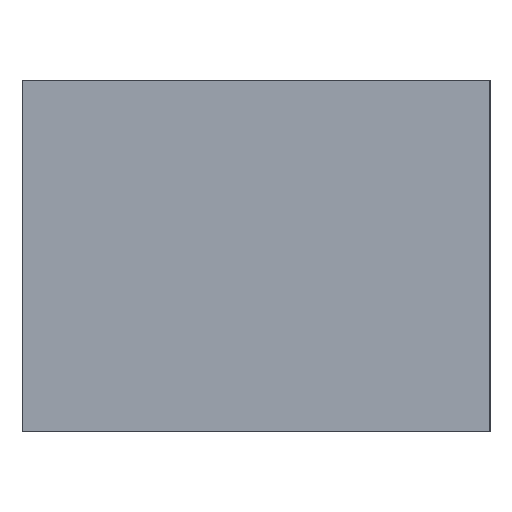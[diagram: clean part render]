
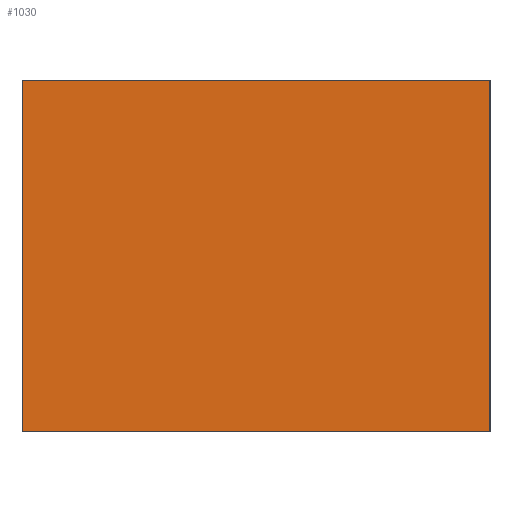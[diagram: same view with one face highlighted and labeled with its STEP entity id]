
A CAD part, left-side view. The second image highlights one B-rep face of the part: STEP entity #1030.
In plain terms, the highlighted planar face has unit normal (-1, 0, 0).
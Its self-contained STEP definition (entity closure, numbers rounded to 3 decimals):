
#1030=ADVANCED_FACE('', (#1040), #1050, .T.);
#3140=AXIS2_PLACEMENT_3D('Ax2Pl3d', #3150, #3160, #3170);
#3350=CARTESIAN_POINT('', (0.,0.,30.));
#3360=CARTESIAN_POINT('', (0.,40.,30.));
#3370=CARTESIAN_POINT('', (0.,0.,30.));
#3610=CARTESIAN_POINT('', (0.,0.,0.));
#3630=CARTESIAN_POINT('', (0.,0.,0.));
#3640=CARTESIAN_POINT('', (0.,40.,0.));
#3760=CARTESIAN_POINT('', (0.,0.,30.));
#3150=CARTESIAN_POINT('HicPkt', (0.,0.,0.));
#3770=CARTESIAN_POINT('', (0.,40.,30.));
#4120=DIRECTION('', (0.,-1.,0.));
#4170=DIRECTION('', (0.,-1.,0.));
#4210=DIRECTION('', (0.,0.,1.));
#3160=DIRECTION('Axis', (-1.,0.,0.))
;
#3170=DIRECTION('RefDirection', (0.,
0.,-1.));
#4220=DIRECTION('', (0.,0.,1.));
#4280=EDGE_CURVE('', #4290, #4300, #4310, .T.);
#4780=EDGE_CURVE('', #4790, #4750, #4800, .T.);
#5020=EDGE_CURVE('', #4750, #4300, #5030, .T.);
#5040=EDGE_CURVE('', #4790, #4290, #5050, .T.);
#6270=EDGE_LOOP('Edge_loop', (#6280,#6290,#6300,#6310));
#1040=FACE_OUTER_BOUND('Face_outer_bound', #6270, .T.);
#4310=LINE('Line', #3350, #6680);
#4800=LINE('Line', #3630, #6730);
#5030=LINE('Line', #3760, #6770);
#5050=LINE('Line', #3770, #6780);
#6280=ORIENTED_EDGE('', *, *, #5020, .T.);
#6290=ORIENTED_EDGE('', *, *, #4280, .F.);
#6300=ORIENTED_EDGE('', *, *, #5040, .F.);
#6310=ORIENTED_EDGE('', *, *, #4780, .T.);
#1050=PLANE('Plane', #3140);
#6680=VECTOR('', #4120, 40.);
#6730=VECTOR('', #4170, 40.);
#6770=VECTOR('', #4210, 30.);
#6780=VECTOR('', #4220, 30.);
#4290=VERTEX_POINT('', #3360);
#4300=VERTEX_POINT('', #3370);
#4750=VERTEX_POINT('', #3610);
#4790=VERTEX_POINT('', #3640);
